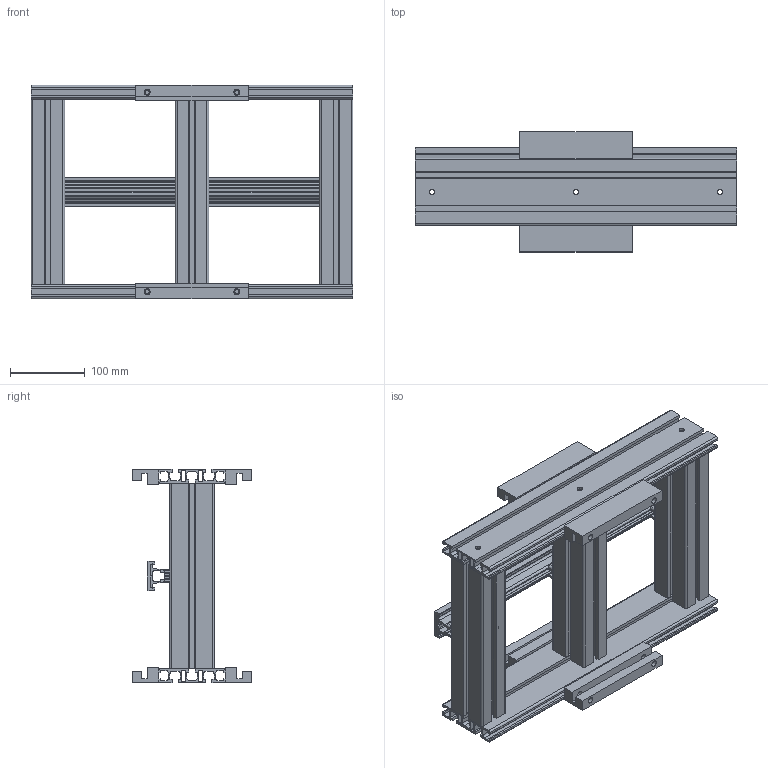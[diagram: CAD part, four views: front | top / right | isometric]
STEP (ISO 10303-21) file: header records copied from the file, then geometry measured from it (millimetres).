
FILE_DESCRIPTION (( 'STEP AP203' ), '1' );
FILE_NAME ('3000.250.104.STEP', '2018-02-28T10:55:00', ( 'Localadmin' ), ( 'Microsoft' ), 'SwSTEP 2.0', 'SolidWorks 2016', '' );
FILE_SCHEMA (( 'CONFIG_CONTROL_DESIGN' ));
Length unit declared in the file: millimetre
Products named in the file (1): 3000.250.104
Bounding box: 430 x 160 x 285 mm (x, y, z)
Volume: 1938240.6 mm3; surface area: 1339273.3 mm2
Topology: 15 solids, 15 shells, 811 faces, 2328 edges, 1552 vertices
Faces by surface type: plane 511, cylinder 296, cone 4
Entity records: 26849 total; most frequent: CARTESIAN_POINT 4728, ORIENTED_EDGE 4656, DIRECTION 4546, EDGE_CURVE 2328, LINE 1710, VECTOR 1710, VERTEX_POINT 1552, AXIS2_PLACEMENT_3D 1418
